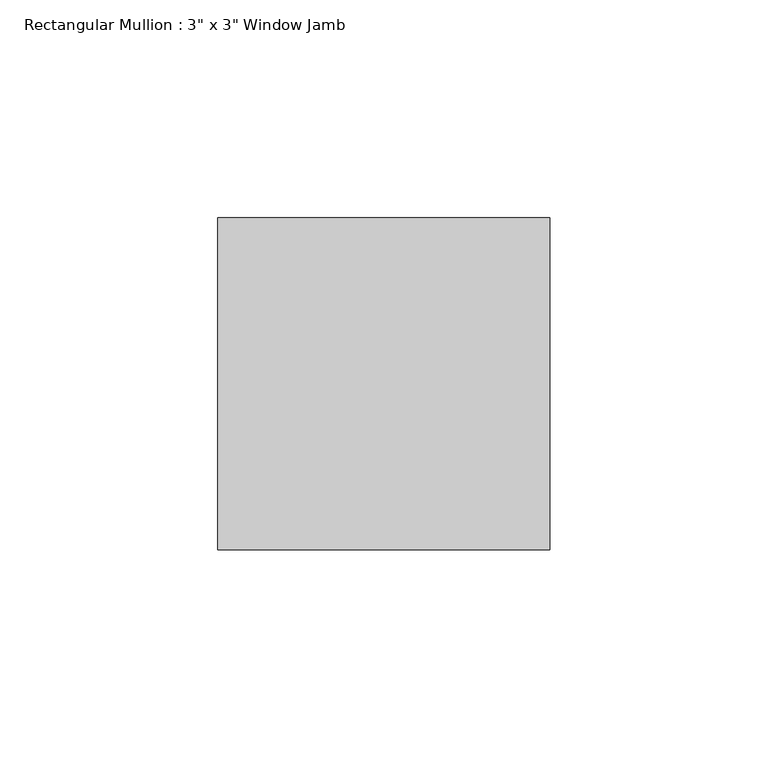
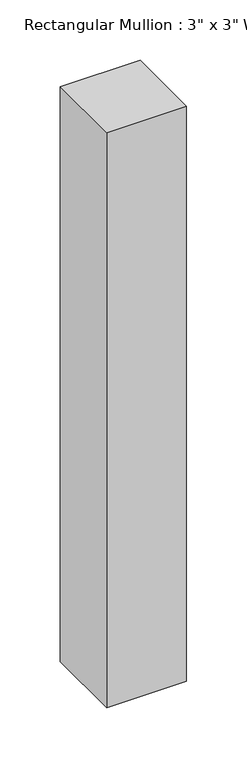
"""IFC4 building model written with IfcOpenShell, lengths in millimetres: member geometry."""

from ifc_helpers import new_model, si_unit, frame, origin, place, context, project, spatial, polyline, outline, extrude, source, transform, mapped, element, save


def member_75ae02f4(model_context):
    return source(origin(), model_context, "Body", "SweptSolid", [
        extrude(outline(polyline([(0.0, 50.8), (0.0, -25.4), (-76.2, -25.4), (-76.2, 50.8), (0.0, 50.8)])), frame((0.0, 0.0, -579.9648817), z_axis=(0.0, 0.0, 1.0), x_axis=(1.0, 0.0, 0.0)), (0.0, 0.0, 1.0), 579.9648817),
    ])


if __name__ == "__main__":
    model = new_model("IFC4")
    model_context = context("Model", 3, world=origin())
    ifc_project = project(units=[si_unit("LENGTHUNIT", "METRE", prefix="MILLI")], contexts=[model_context])
    site = spatial("IfcSite", under=ifc_project)
    building = spatial("IfcBuilding", under=site)
    placement = place(None, origin())
    member_shape = member_75ae02f4(model_context)
    element("IfcMember", 1, ObjectType="Rectangular Mullion : 3\" x 3\" Window Jamb", at=placement, inside=building, context=model_context, shape_type="MappedRepresentation", body=[
        mapped(member_shape, transform((0.0, 0.0, 0.0), x_axis=(1.0, 0.0, 0.0), y_axis=(0.0, 1.0, 0.0), z_axis=(0.0, 0.0, 1.0))),
    ])
    save(model, "model.ifc")
